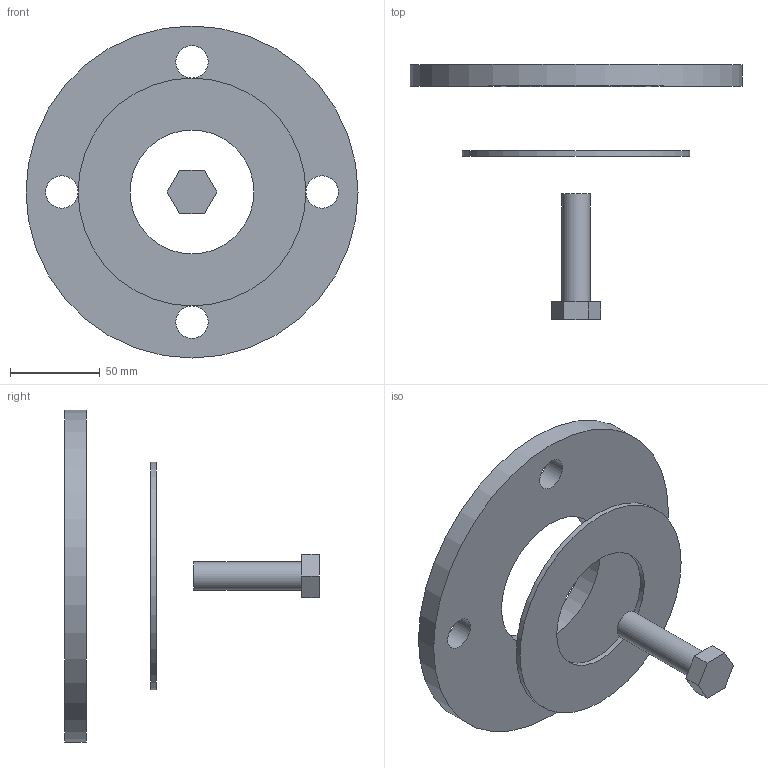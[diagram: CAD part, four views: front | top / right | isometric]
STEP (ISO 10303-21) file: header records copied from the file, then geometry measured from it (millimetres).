
FILE_DESCRIPTION( ( 'STEP AP214' ), '1' );
FILE_NAME( 'C:/Users/ilukic/Documents/ex/gebaudeentwasserung/pe/Geberit PE flange set/365746.stp', '2020-03-26T18:42:21', ( '' ), ( '' ), ' ', 'PARTsolutions', ' ' );
FILE_SCHEMA( ( 'AUTOMOTIVE_DESIGN { 1 0 10303 214 1 1 1 1 }' ) );
Length unit declared in the file: millimetre
Products named in the file (4): 365746; _365746_flange1; _365746_flange2; _365746_bolt
Assembly tree (3 placements, depth 2):
  365746
    _365746_flange1
    _365746_flange2
    _365746_bolt
Bounding box: 185 x 142 x 185 mm (x, y, z)
Volume: 296845.4 mm3; surface area: 79346.3 mm2
Topology: 3 solids, 3 shells, 22 faces, 45 edges, 30 vertices
Faces by surface type: plane 13, cylinder 9
Full cylindrical faces by diameter (mm): 16 x1, 18 x4, 69 x1, 78 x1, 127 x1, 185 x1
Entity records: 812 total; most frequent: DIRECTION 106, CARTESIAN_POINT 92, ORIENTED_EDGE 72, AXIS2_PLACEMENT_3D 44, EDGE_LOOP 44, EDGE_CURVE 36, FACE_OUTER_BOUND 31, VERTEX_POINT 30
